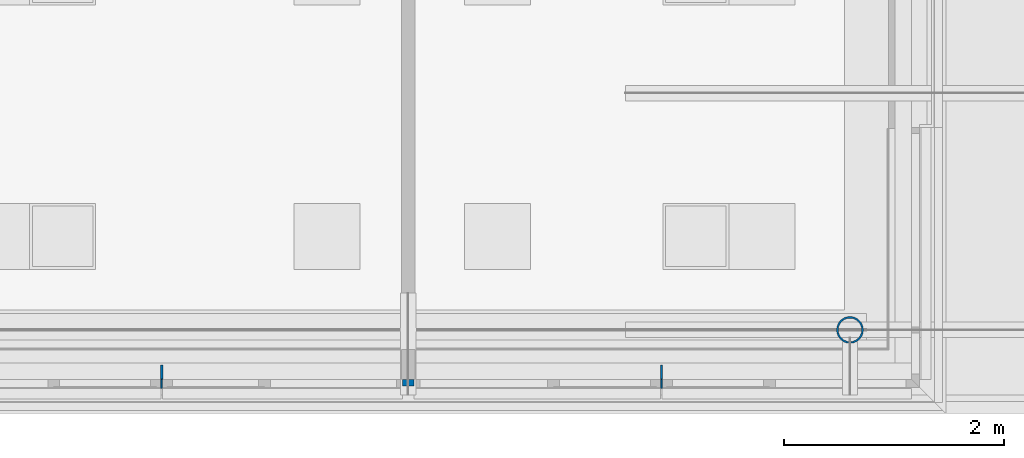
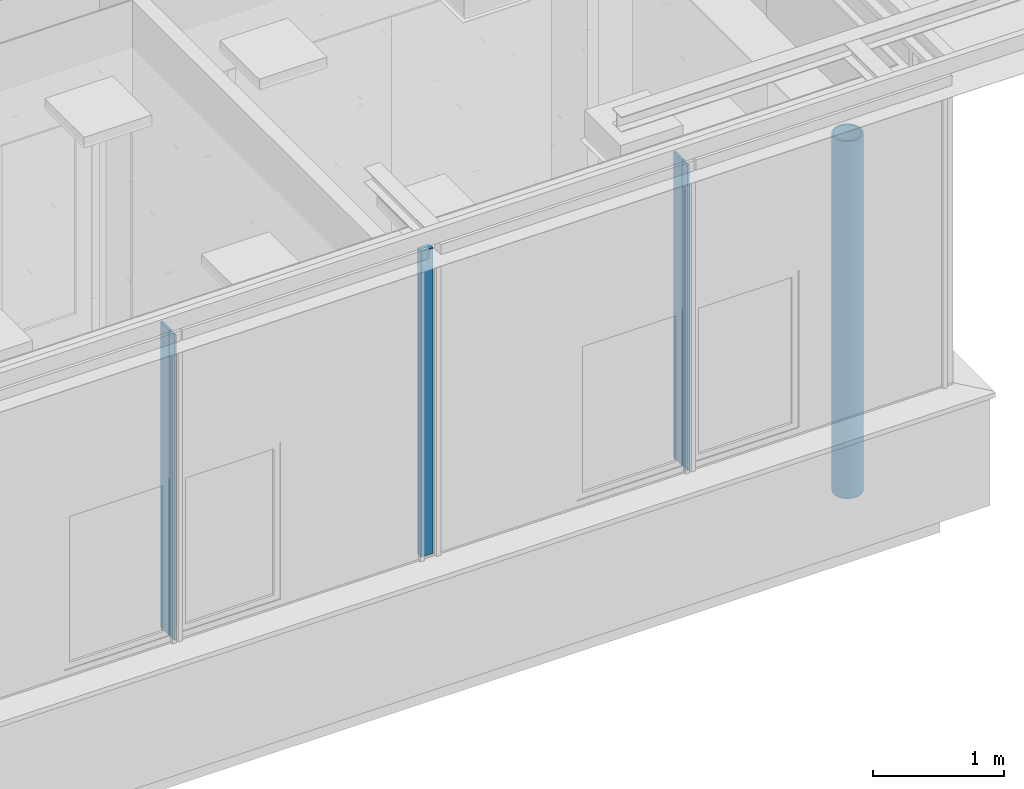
# One storey, part 10 of 260: 6 columns.
"""IFC2X3 building model written with IfcOpenShell, lengths in millimetres."""

from ifc_helpers import new_model, entity, si_unit, converted_unit, derived_unit, money_unit, direction, frame, origin_with_axes, place, context, subcontext, project, spatial, faceted_brep, material, type_object, element, save


model = new_model("IFC2X3")

# Units and contexts
model_context = context("Model", 3, precision=0.01, world=origin_with_axes(), true_north=direction((0.0, 1.0)))
plan_context = context("Plan", 3, precision=0.01, world=origin_with_axes(), true_north=direction((0.0, 1.0)))
body_context = subcontext(model_context, "Body", "Model", "MODEL_VIEW")
ifc_project = project(units=[si_unit("LENGTHUNIT", "METRE", prefix="MILLI"), si_unit("AREAUNIT", "SQUARE_METRE"), si_unit("VOLUMEUNIT", "CUBIC_METRE"), converted_unit("PLANEANGLEUNIT", "DEGREE", entity("IfcPlaneAngleMeasure", 0.0174532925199), si_unit("PLANEANGLEUNIT", "RADIAN"), dimensions=[0, 0, 0, 0, 0, 0, 0]), money_unit("EUR"), converted_unit("TIMEUNIT", "Year", entity("IfcTimeMeasure", 31556926.0), si_unit("TIMEUNIT", "SECOND"), dimensions=[0, 0, 1, 0, 0, 0, 0]), si_unit("MASSUNIT", "GRAM", prefix="KILO"), si_unit("THERMODYNAMICTEMPERATUREUNIT", "DEGREE_CELSIUS"), si_unit("LUMINOUSINTENSITYUNIT", "LUMEN"), si_unit("ENERGYUNIT", "JOULE", prefix="MEGA"), derived_unit("THERMALCONDUCTANCEUNIT", [(si_unit("POWERUNIT", "WATT"), 1), (si_unit("LENGTHUNIT", "METRE"), -1), (si_unit("THERMODYNAMICTEMPERATUREUNIT", "KELVIN"), -1)]), derived_unit("SPECIFICHEATCAPACITYUNIT", [(si_unit("ENERGYUNIT", "JOULE"), 1), (si_unit("MASSUNIT", "GRAM", prefix="KILO"), -1), (si_unit("THERMODYNAMICTEMPERATUREUNIT", "KELVIN"), -1)]), derived_unit("MASSDENSITYUNIT", [(si_unit("MASSUNIT", "GRAM", prefix="KILO"), 1), (si_unit("VOLUMEUNIT", "CUBIC_METRE"), -1)])], contexts=[model_context, plan_context])

# Site, building, storey
site_placement = place(None, origin_with_axes())
site = spatial("IfcSite", under=ifc_project, at=site_placement, Name="Site", CompositionType="ELEMENT")
building_placement = place(site_placement, origin_with_axes())
building = spatial("IfcBuilding", under=site, at=building_placement, Name="Naam gebouw", CompositionType="ELEMENT")
storey_placement = place(building_placement, frame((0.0, 0.0, 3960.0), z_axis=(0.0, 0.0, 1.0), x_axis=(1.0, 0.0, 0.0)))
storey = spatial("IfcBuildingStorey", under=building, at=storey_placement, Name="verdieping", CompositionType="ELEMENT", Elevation=3960.0)

# Columns
ifc_material_1 = material(Name="Metaal - Staal C wit")
column_type_1 = type_object("IfcColumnType", Name="Lucht D245", PredefinedType="COLUMN")
column_1_placement = place(storey_placement, frame((44095.0, 5300.0, -80.0), z_axis=(0.0, 0.0, 1.0), x_axis=(1.0, 0.0, 0.0)))
element("IfcColumn", 1, at=column_1_placement, inside=storey, type_object=column_type_1, material=ifc_material_1, Name="28_kolom ø 273mm", ObjectType="COLUMN", context=body_context, shape_type="Brep", body=[
    faceted_brep([(119.184937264, 27.2031841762, 0.0), (110.143444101, 53.0422871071, 0.0), (110.143444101, 53.0422871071, 3340.0), (119.184937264, 27.2031841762, 3340.0), (122.25, 0.0, 0.0), (119.184937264, -27.2031841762, 0.0), (110.143444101, -53.0422871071, 0.0), (95.5788987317, -76.2216282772, 0.0), (76.2216282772, -95.5788987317, 0.0), (53.0422871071, -110.143444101, 0.0), (27.2031841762, -119.184937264, 0.0), (0.0, -122.25, 0.0), (-27.2031841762, -119.184937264, 0.0), (-53.0422871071, -110.143444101, 0.0), (-76.2216282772, -95.5788987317, 0.0), (-95.5788987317, -76.2216282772, 0.0), (-110.143444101, -53.0422871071, 0.0), (-119.184937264, -27.2031841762, 0.0), (-122.25, 0.0, 0.0), (-119.184937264, 27.2031841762, 0.0), (-110.143444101, 53.0422871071, 0.0), (-95.5788987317, 76.2216282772, 0.0), (-76.2216282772, 95.5788987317, 0.0), (-53.0422871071, 110.143444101, 0.0), (-27.2031841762, 119.184937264, 0.0), (0.0, 122.25, 0.0), (27.2031841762, 119.184937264, 0.0), (53.0422871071, 110.143444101, 0.0), (76.2216282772, 95.5788987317, 0.0), (95.5788987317, 76.2216282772, 0.0), (102.629619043, -27.4995235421, 0.0), (106.25, 0.0, 0.0), (102.629619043, 27.4995235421, 0.0), (92.0151991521, 53.125, 0.0), (75.1300955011, 75.1300955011, 0.0), (53.125, 92.0151991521, 0.0), (27.4995235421, 102.629619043, 0.0), (0.0, 106.25, 0.0), (-27.4995235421, 102.629619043, 0.0), (-53.125, 92.0151991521, 0.0), (-75.1300955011, 75.1300955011, 0.0), (-92.0151991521, 53.125, 0.0), (-102.629619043, 27.4995235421, 0.0), (-106.25, 0.0, 0.0), (-102.629619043, -27.4995235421, 0.0), (-92.0151991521, -53.125, 0.0), (-75.1300955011, -75.1300955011, 0.0), (-53.125, -92.0151991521, 0.0), (-27.4995235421, -102.629619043, 0.0), (0.0, -106.25, 0.0), (27.4995235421, -102.629619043, 0.0), (53.125, -92.0151991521, 0.0), (75.1300955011, -75.1300955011, 0.0), (92.0151991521, -53.125, 0.0), (95.5788987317, 76.2216282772, 3340.0), (76.2216282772, 95.5788987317, 3340.0), (53.0422871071, 110.143444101, 3340.0), (27.2031841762, 119.184937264, 3340.0), (0.0, 122.25, 3340.0), (-27.2031841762, 119.184937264, 3340.0), (-53.0422871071, 110.143444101, 3340.0), (-76.2216282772, 95.5788987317, 3340.0), (-95.5788987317, 76.2216282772, 3340.0), (-110.143444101, 53.0422871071, 3340.0), (-119.184937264, 27.2031841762, 3340.0), (-122.25, 0.0, 3340.0), (-119.184937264, -27.2031841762, 3340.0), (-110.143444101, -53.0422871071, 3340.0), (-95.5788987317, -76.2216282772, 3340.0), (-76.2216282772, -95.5788987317, 3340.0), (-53.0422871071, -110.143444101, 3340.0), (-27.2031841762, -119.184937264, 3340.0), (0.0, -122.25, 3340.0), (27.2031841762, -119.184937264, 3340.0), (53.0422871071, -110.143444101, 3340.0), (76.2216282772, -95.5788987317, 3340.0), (95.5788987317, -76.2216282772, 3340.0), (110.143444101, -53.0422871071, 3340.0), (119.184937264, -27.2031841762, 3340.0), (122.25, 0.0, 3340.0), (102.629619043, -27.4995235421, 3340.0), (92.0151991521, -53.125, 3340.0), (75.1300955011, -75.1300955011, 3340.0), (53.125, -92.0151991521, 3340.0), (27.4995235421, -102.629619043, 3340.0), (0.0, -106.25, 3340.0), (-27.4995235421, -102.629619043, 3340.0), (-53.125, -92.0151991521, 3340.0), (-75.1300955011, -75.1300955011, 3340.0), (-92.0151991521, -53.125, 3340.0), (-102.629619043, -27.4995235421, 3340.0), (-106.25, 0.0, 3340.0), (-102.629619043, 27.4995235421, 3340.0), (-92.0151991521, 53.125, 3340.0), (-75.1300955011, 75.1300955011, 3340.0), (-53.125, 92.0151991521, 3340.0), (-27.4995235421, 102.629619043, 3340.0), (0.0, 106.25, 3340.0), (27.4995235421, 102.629619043, 3340.0), (53.125, 92.0151991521, 3340.0), (75.1300955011, 75.1300955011, 3340.0), (92.0151991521, 53.125, 3340.0), (102.629619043, 27.4995235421, 3340.0), (106.25, 0.0, 3340.0)], [[[0, 1, 2, 3]], [[0, 4, 5, 6, 7, 8, 9, 10, 11, 12, 13, 14, 15, 16, 17, 18, 19, 20, 21, 22, 23, 24, 25, 26, 27, 28, 29, 1], [30, 31, 32, 33, 34, 35, 36, 37, 38, 39, 40, 41, 42, 43, 44, 45, 46, 47, 48, 49, 50, 51, 52, 53]], [[1, 29, 54, 2]], [[3, 2, 54, 55, 56, 57, 58, 59, 60, 61, 62, 63, 64, 65, 66, 67, 68, 69, 70, 71, 72, 73, 74, 75, 76, 77, 78, 79], [80, 81, 82, 83, 84, 85, 86, 87, 88, 89, 90, 91, 92, 93, 94, 95, 96, 97, 98, 99, 100, 101, 102, 103]], [[4, 0, 3, 79]], [[5, 4, 79, 78]], [[6, 5, 78, 77]], [[7, 6, 77, 76]], [[8, 7, 76, 75]], [[9, 8, 75, 74]], [[10, 9, 74, 73]], [[11, 10, 73, 72]], [[12, 11, 72, 71]], [[13, 12, 71, 70]], [[14, 13, 70, 69]], [[15, 14, 69, 68]], [[16, 15, 68, 67]], [[17, 16, 67, 66]], [[18, 17, 66, 65]], [[19, 18, 65, 64]], [[20, 19, 64, 63]], [[21, 20, 63, 62]], [[22, 21, 62, 61]], [[23, 22, 61, 60]], [[24, 23, 60, 59]], [[25, 24, 59, 58]], [[26, 25, 58, 57]], [[27, 26, 57, 56]], [[28, 27, 56, 55]], [[29, 28, 55, 54]], [[31, 30, 80, 103]], [[32, 31, 103, 102]], [[33, 32, 102, 101]], [[34, 33, 101, 100]], [[35, 34, 100, 99]], [[36, 35, 99, 98]], [[37, 36, 98, 97]], [[38, 37, 97, 96]], [[39, 38, 96, 95]], [[40, 39, 95, 94]], [[41, 40, 94, 93]], [[42, 41, 93, 92]], [[43, 42, 92, 91]], [[44, 43, 91, 90]], [[45, 44, 90, 89]], [[46, 45, 89, 88]], [[47, 46, 88, 87]], [[48, 47, 87, 86]], [[49, 48, 86, 85]], [[50, 49, 85, 84]], [[51, 50, 84, 83]], [[52, 51, 83, 82]], [[53, 52, 82, 81]], [[30, 53, 81, 80]]]),
])
column_type_2 = type_object("IfcColumnType", Name="Metaal - Staal C wit 20 x 130", PredefinedType="COLUMN")
for number, where, z_axis, x_axis, name in (
    (2, (42382.5, 4915.0, 1020.0), (0.0, 0.0, 1.0), (1.0, 0.0, 0.0), "28_kolom koker"),
    (3, (37843.7500179, 4915.0, 1020.0), (0.0, 0.0, 1.0), (1.0, 0.0, 0.0), "28_kolom koker"),
):
    element("IfcColumn", number, at=place(storey_placement, frame(where, z_axis=z_axis, x_axis=x_axis)), inside=storey, type_object=column_type_2, material=ifc_material_1, Name=name, ObjectType="COLUMN", context=body_context, shape_type="Brep", body=[
        faceted_brep([(-10.0, -65.0, 2860.0), (-10.0, -65.0, 0.0), (10.0, -65.0, 0.0), (10.0, -65.0, 2860.0), (-10.0, 65.0, 2860.0), (-10.0, 65.0, 0.0), (10.0, 65.0, 0.0), (10.0, 65.0, 2860.0)], [[[0, 1, 2, 3]], [[4, 5, 1, 0]], [[2, 1, 5, 6]], [[3, 2, 6, 7]], [[4, 0, 3, 7]], [[7, 6, 5, 4]]]),
    ])
ifc_material_2 = material(Name="Metaal - Aluminium beige")
column_type_3 = type_object("IfcColumnType", Name="Metaal - Aluminium beige 15 x 80", PredefinedType="COLUMN")
for number, where, z_axis, x_axis, name in (
    (4, (42382.5, 4809.99992429, 1020.0), (0.0, 0.0, 1.0), (1.0, 0.0, 0.0), "28_kolom koker"),
    (5, (37843.7500179, 4809.99992429, 1020.0), (0.0, 0.0, 1.0), (1.0, 0.0, 0.0), "28_kolom koker"),
):
    element("IfcColumn", number, at=place(storey_placement, frame(where, z_axis=z_axis, x_axis=x_axis)), inside=storey, type_object=column_type_3, material=ifc_material_2, Name=name, ObjectType="COLUMN", context=body_context, shape_type="Brep", body=[
        faceted_brep([(-7.5, -40.0, 2860.0), (-7.5, -40.0, 0.0), (7.5, -40.0, 0.0), (7.5, -40.0, 2860.0), (-7.5, 40.0, 2860.0), (-7.5, 40.0, 0.0), (7.5, 40.0, 0.0), (7.5, 40.0, 2860.0)], [[[0, 1, 2, 3]], [[4, 5, 1, 0]], [[2, 1, 5, 6]], [[3, 2, 6, 7]], [[4, 0, 3, 7]], [[7, 6, 5, 4]]]),
    ])
ifc_material_3 = material(Name="Isolatie - Kunststof hard")
column_type_4 = type_object("IfcColumnType", Name="Isolatie - Kunststof hard 105 x 60", PredefinedType="COLUMN")
column_2_placement = place(storey_placement, frame((40082.5, 4819.99992429, 1020.0), z_axis=(0.0, 0.0, 1.0), x_axis=(1.0, 0.0, 0.0)))
element("IfcColumn", 6, at=column_2_placement, inside=storey, type_object=column_type_4, material=ifc_material_3, Name="28_kolom koker", ObjectType="COLUMN", context=body_context, shape_type="Brep", body=[
    faceted_brep([(-52.5, -30.0, 2860.0), (-52.5, -30.0, 0.0), (52.5, -30.0, 0.0), (52.5, -30.0, 2860.0), (-52.5, 30.0, 2860.0), (-52.5, 30.0, 0.0), (52.5, 30.0, 0.0), (52.5, 30.0, 2860.0)], [[[0, 1, 2, 3]], [[4, 5, 1, 0]], [[2, 1, 5, 6]], [[3, 2, 6, 7]], [[4, 0, 3, 7]], [[7, 6, 5, 4]]]),
])

save(model, "model.ifc")
